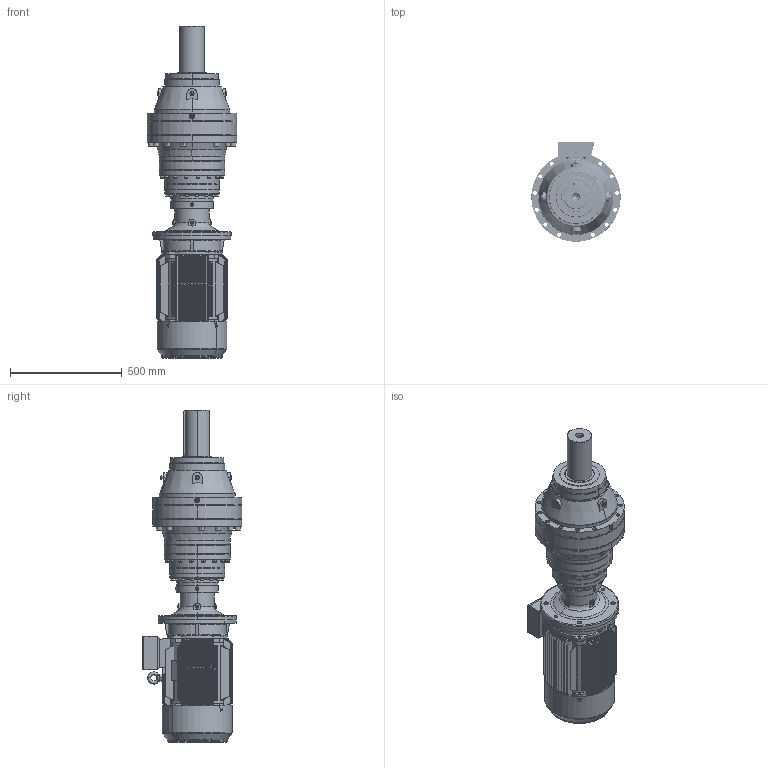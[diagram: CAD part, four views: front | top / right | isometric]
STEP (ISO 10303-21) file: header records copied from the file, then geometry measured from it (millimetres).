
FILE_DESCRIPTION (( 'STEP AP203' ), '1' );
FILE_NAME ('PVL-2704L-HS160L-4.STEP', '2019-05-24T07:42:04', ( '' ), ( '' ), 'SwSTEP 2.0', 'SolidWorks 2012', '' );
FILE_SCHEMA (( 'CONFIG_CONTROL_DESIGN' ));
Products named in the file (18): PVL-2704L-HS160L-4; M3-HS160L-FF-B5; M3-160L-FF-B5; Y2-160_shaft; Y2-160L+À+¿(B5)_-++ñ; Y2-160-2ª¥--®+_-++ñ; Eyebolts GB_GB_FASTENER_SCREWS_FRS M12N; +¦i-MN2-160_-++ñ; +ª+§ªiY2-160ñ»ª­_-++ñ; Y2-160ñ»ª­+¿_-++ñ; Y2-160-4Ý¾6Ý¾8-ª+---®+_-++ñ; FL12A_Varsayìlan; Y2-160-180ñ»ª­®+_-++ñ; PNL_2704L_0_0_A16_B5_ML43A_FL12A_0_0_0_0_0_0_0_0_0_0_0_M1; EK2704L_Varsayìlan; P27_Varsayìlan; ML43A_Varsayìlan; 11160B5_Varsayìlan
Assembly tree (17 placements, depth 5):
  PVL-2704L-HS160L-4
    PNL_2704L_0_0_A16_B5_ML43A_FL12A_0_0_0_0_0_0_0_0_0_0_0_M1
      P27_Varsayìlan
      11160B5_Varsayìlan
      ML43A_Varsayìlan
      EK2704L_Varsayìlan
      FL12A_Varsayìlan
    M3-HS160L-FF-B5
      M3-160L-FF-B5
        +ª+§ªiY2-160ñ»ª­_-++ñ
          Y2-160-180ñ»ª­®+_-++ñ
          Y2-160ñ»ª­+¿_-++ñ
        Y2-160-4Ý¾6Ý¾8-ª+---®+_-++ñ
        Y2-160L+À+¿(B5)_-++ñ
        Eyebolts GB_GB_FASTENER_SCREWS_FRS M12N
        Y2-160-2ª¥--®+_-++ñ
        +¦i-MN2-160_-++ñ
        Y2-160_shaft
Bounding box: 400 x 447 x 1488.1 mm (x, y, z)
Volume: 53897945.6 mm3; surface area: 4259967.5 mm2
Topology: 16 solids, 29 shells, 3909 faces, 10351 edges, 6593 vertices
Faces by surface type: plane 1594, cylinder 1473, bspline 442, cone 279, torus 81, sphere 40
Full cylindrical faces by diameter (mm): 8.566 x1
Entity records: 172366 total; most frequent: CARTESIAN_POINT 76984, ORIENTED_EDGE 20420, DIRECTION 18583, EDGE_CURVE 10218, AXIS2_PLACEMENT_3D 7169, VERTEX_POINT 6579, EDGE_LOOP 4420, LINE 4245
